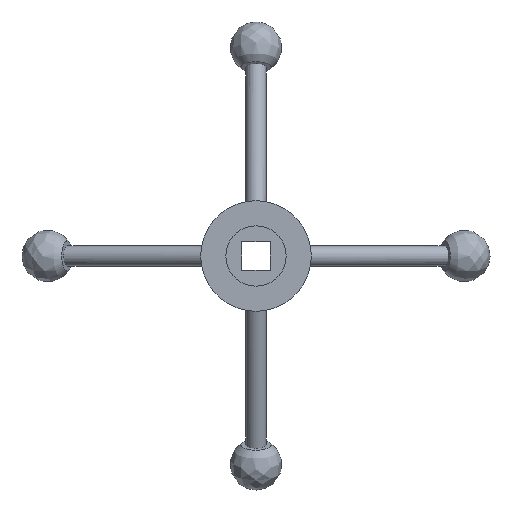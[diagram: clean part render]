
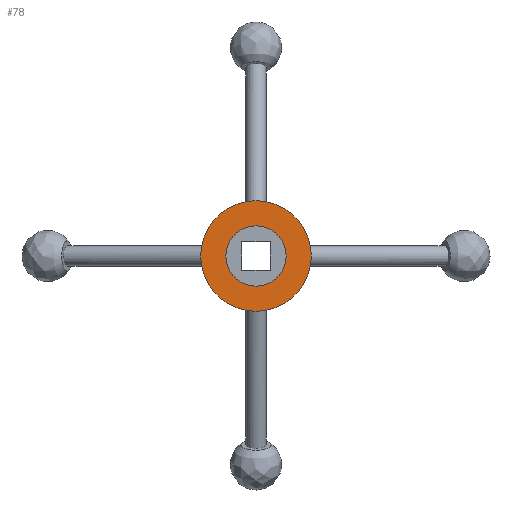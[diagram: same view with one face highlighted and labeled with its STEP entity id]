
A CAD part, front view. The second image highlights one B-rep face of the part: STEP entity #78.
In plain terms, the highlighted planar face has unit normal (0, -1, 0).
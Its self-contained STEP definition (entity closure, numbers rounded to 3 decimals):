
#78 = ADVANCED_FACE( '', ( #107, #108 ), #109, .F. );
#107 = FACE_BOUND( '', #173, .T. );
#108 = FACE_OUTER_BOUND( '', #174, .T. );
#109 = PLANE( '', #175 );
#173 = EDGE_LOOP( '', ( #384 ) );
#174 = EDGE_LOOP( '', ( #385 ) );
#175 = AXIS2_PLACEMENT_3D( '', #386, #387, #388 );
#384 = ORIENTED_EDGE( '', *, *, #489, .F. );
#385 = ORIENTED_EDGE( '', *, *, #490, .T. );
#386 = CARTESIAN_POINT( '', ( 27.5, 10., 0. ) );
#387 = DIRECTION( '', ( 0., 1., 0. ) );
#388 = DIRECTION( '', ( 0., 0., 1. ) );
#489 = EDGE_CURVE( '', #529, #529, #530, .T. );
#490 = EDGE_CURVE( '', #531, #531, #532, .T. );
#529 = VERTEX_POINT( '', #660 );
#530 = CIRCLE( '', #661, 15. );
#531 = VERTEX_POINT( '', #662 );
#532 = CIRCLE( '', #663, 27.5 );
#660 = CARTESIAN_POINT( '', ( 0., 10., -15. ) );
#661 = AXIS2_PLACEMENT_3D( '', #933, #934, #935 );
#662 = CARTESIAN_POINT( '', ( 0., 10., -27.5 ) );
#663 = AXIS2_PLACEMENT_3D( '', #936, #937, #938 );
#933 = CARTESIAN_POINT( '', ( 0., 10., 0. ) );
#934 = DIRECTION( '', ( 0., -1., 0. ) );
#935 = DIRECTION( '', ( 0., 0., -1. ) );
#936 = CARTESIAN_POINT( '', ( 0., 10., 0. ) );
#937 = DIRECTION( '', ( 0., -1., 0. ) );
#938 = DIRECTION( '', ( 0., 0., -1. ) );
